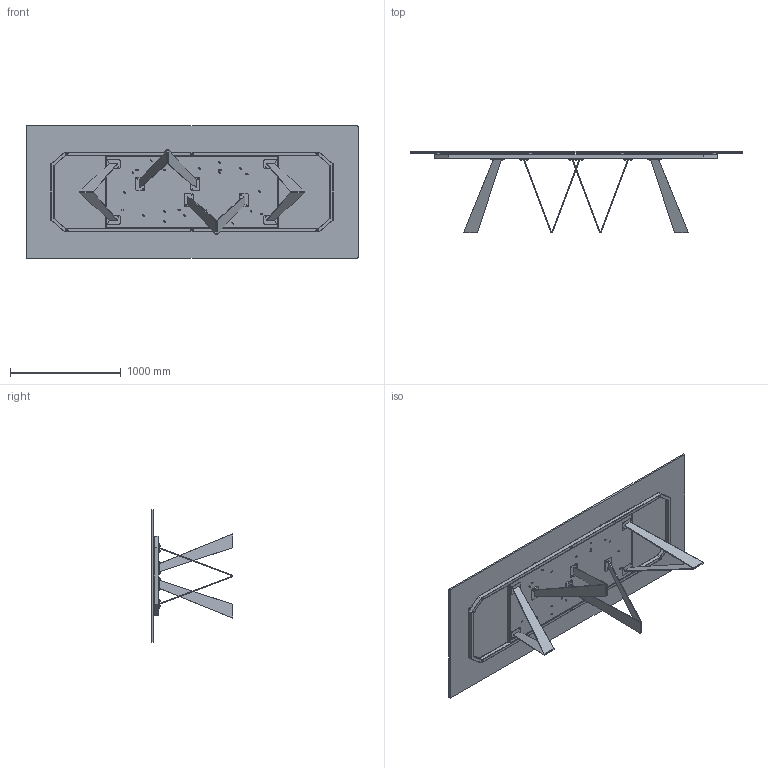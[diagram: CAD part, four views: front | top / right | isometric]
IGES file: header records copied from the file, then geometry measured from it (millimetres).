
Start section: SolidWorks IGES file using analytic representation for surfaces
Global section: file name: Y:\eforma\TECNICO\SOLIDWORKS\E-FORMA\1-TAVOLI\NOA TAVOLO\02 parts\NO29G_Noa_295x120x75h_Glass Rectangular.IGS; native system: SolidWorks 2022; preprocessor: SolidWorks 2022; author: eforma.tech; date: 240807.161808; units: millimetre
Bounding box: 3000 x 734.8 x 1200 mm (x, y, z)
Volume: 65262949.9 mm3; surface area: 12747562 mm2
Topology: 51 solids, 51 shells, 1164 faces, 2732 edges, 1640 vertices
Faces by surface type: revolution 644, plane 520
